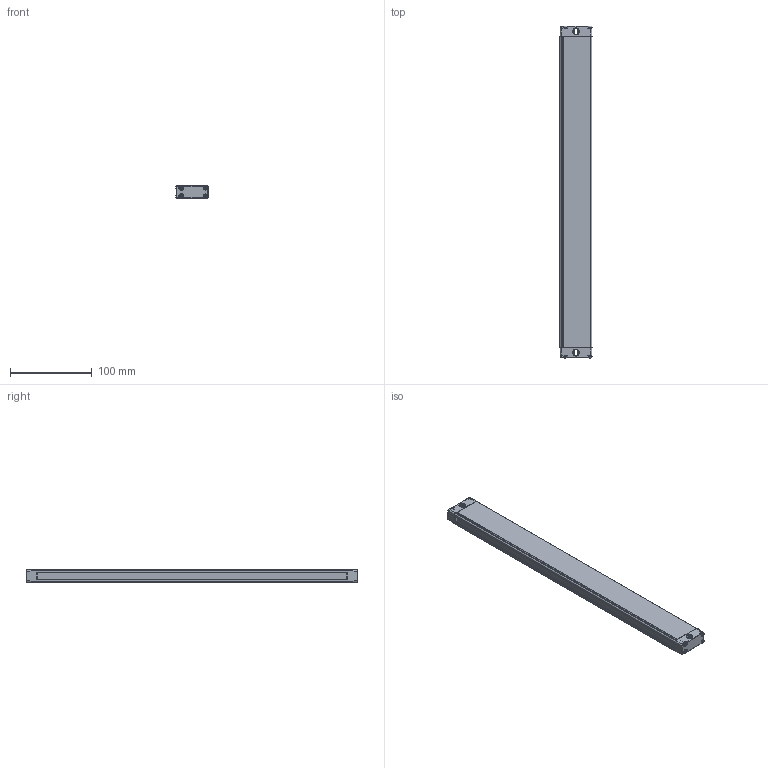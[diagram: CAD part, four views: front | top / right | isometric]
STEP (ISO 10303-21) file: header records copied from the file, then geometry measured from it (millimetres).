
FILE_DESCRIPTION((''),'2;1');
FILE_NAME('EB15--3610_ASM','2021-07-22T11:15:57',('18720616900'),(''),'CREO PARAMETRIC BY PTC INC, 2019010','CREO PARAMETRIC BY PTC INC, 2019010','');
FILE_SCHEMA(('CONFIG_CONTROL_DESIGN'));
Length unit declared in the file: millimetre
Products named in the file (6): EB15-00; EB15-000; EB15-0003; EB15-0004; ST-3-12; EB15--3610_ASM
Assembly tree (12 placements, depth 2):
  EB15--3610_ASM
    EB15-00
    EB15-000
    EB15-0003
    EB15-0004
    ST-3-12  x8
Bounding box: 39.15 x 405 x 15.8 mm (x, y, z)
Volume: 242934.7 mm3; surface area: 62449.7 mm2
Topology: 12 solids, 12 shells, 827 faces, 2188 edges, 1368 vertices
Faces by surface type: plane 242, bspline 188, cone 176, cylinder 165, torus 40, sphere 16
Entity records: 16044 total; most frequent: CARTESIAN_POINT 7660, ORIENTED_EDGE 1804, DIRECTION 1603, EDGE_CURVE 902, AXIS2_PLACEMENT_3D 577, VERTEX_POINT 563, VECTOR 449, LINE 449
